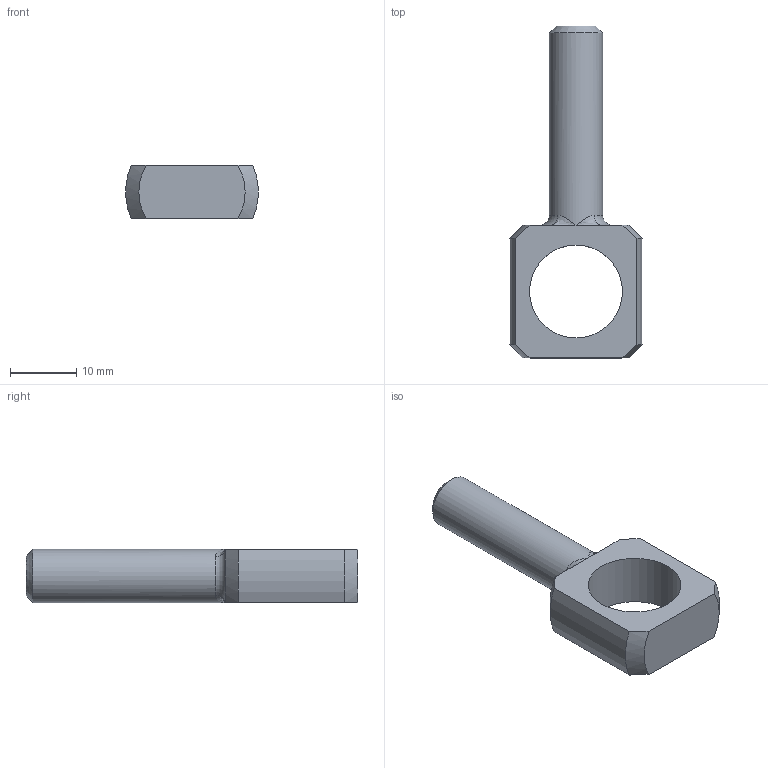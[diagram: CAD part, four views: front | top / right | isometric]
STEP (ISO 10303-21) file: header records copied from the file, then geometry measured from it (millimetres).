
FILE_DESCRIPTION( ( 'Unknown' ), '1' );
FILE_NAME( 'C:/Users/Fabrizio/Desktop/STEP/CA.05.07.002.stp', 'Unknown', ( 'Unknown' ), ( 'Unknown' ), 'PSStep 13.0', 'Unknown', ' ' );
FILE_SCHEMA( ( 'AUTOMOTIVE_DESIGN { 1 0 10303 214 1 1 1 1 }' ) );
Length unit declared in the file: millimetre
Products named in the file (2): Assem1; 05.07.002
Bounding box: 19.93 x 50 x 8 mm (x, y, z)
Volume: 6640.3 mm3; surface area: 4177.4 mm2
Topology: 2 solids, 2 shells, 42 faces, 106 edges, 60 vertices
Faces by surface type: plane 12, cone 10, cylinder 8, bspline 8, torus 4
Full cylindrical faces by diameter (mm): 8 x2, 14 x2
Entity records: 1086 total; most frequent: CARTESIAN_POINT 439, DIRECTION 92, ORIENTED_EDGE 92, EDGE_CURVE 46, AXIS2_PLACEMENT_3D 39, VERTEX_POINT 30, EDGE_LOOP 26, FACE_OUTER_BOUND 23
